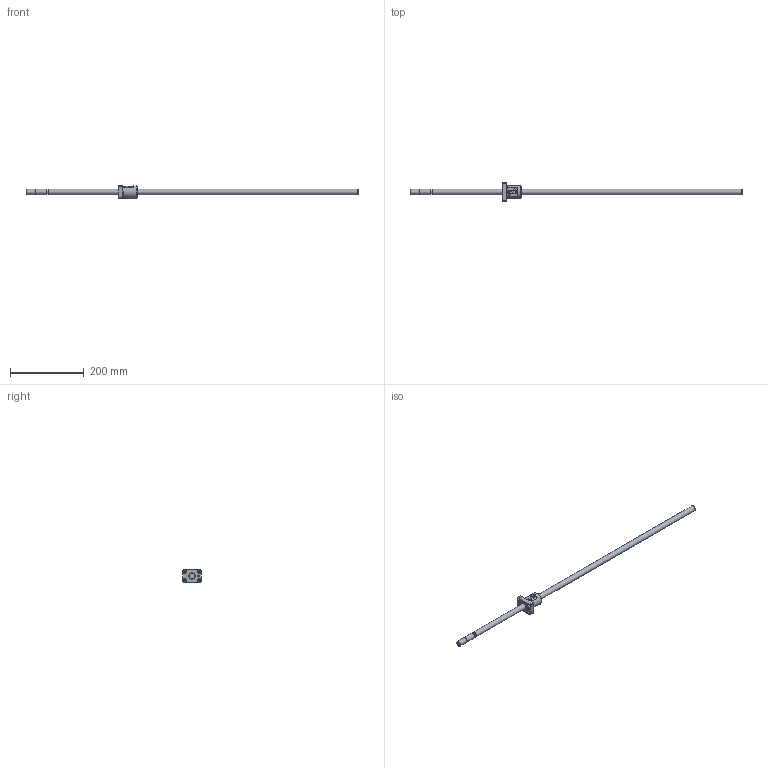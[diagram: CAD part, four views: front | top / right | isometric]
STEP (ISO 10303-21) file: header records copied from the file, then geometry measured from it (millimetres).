
FILE_DESCRIPTION (( 'STEP AP214' ), '1' );
FILE_NAME ('KBS(C)1510-900.STEP', '2021-07-05T02:12:44', ( '' ), ( '' ), 'SwSTEP 2.0', 'SolidWorks 2019', '' );
FILE_SCHEMA (( 'AUTOMOTIVE_DESIGN' ));
Length unit declared in the file: millimetre
Products named in the file (3): KBS1510-900; KBS1510; KBS(C)1510-900
Assembly tree (2 placements, depth 2):
  KBS(C)1510-900
    KBS1510-900
    KBS1510
Bounding box: 900 x 50 x 34 mm (x, y, z)
Volume: 201181.4 mm3; surface area: 56105.8 mm2
Topology: 2 solids, 2 shells, 103 faces, 262 edges, 173 vertices
Faces by surface type: plane 55, cylinder 40, cone 4, torus 4
Full cylindrical faces by diameter (mm): 3.2 x1, 5 x1, 5.5 x4, 5.6 x2, 9.5 x4, 12.5 x1, 14.5 x1, 15 x3, 17 x2, 34 x1
Entity records: 3303 total; most frequent: CARTESIAN_POINT 868, DIRECTION 464, ORIENTED_EDGE 448, EDGE_CURVE 224, AXIS2_PLACEMENT_3D 176, VERTEX_POINT 164, EDGE_LOOP 158, FACE_OUTER_BOUND 127
